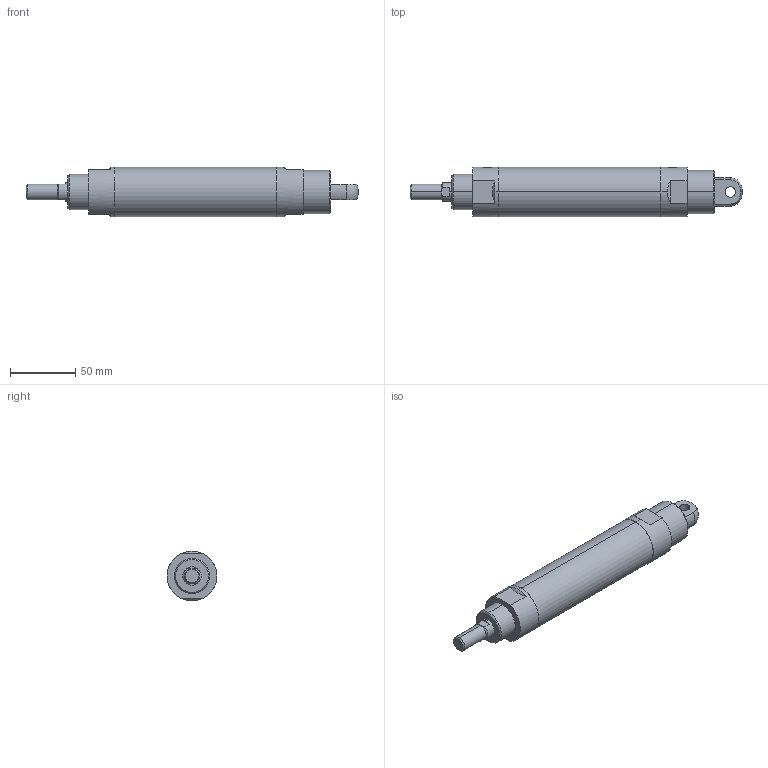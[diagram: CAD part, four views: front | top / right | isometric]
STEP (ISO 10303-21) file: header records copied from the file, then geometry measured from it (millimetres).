
FILE_DESCRIPTION (( 'STEP AP203' ), '1' );
FILE_NAME ('J#2-32-75-C.STEP', '2016-03-08T07:34:39', ( '' ), ( '' ), 'SwSTEP 2.0', 'SolidWorks 2014', '' );
FILE_SCHEMA (( 'CONFIG_CONTROL_DESIGN' ));
Length unit declared in the file: millimetre
Products named in the file (1): J#2-32-75-C
Bounding box: 254 x 38 x 38 mm (x, y, z)
Volume: 213968.8 mm3; surface area: 28821.2 mm2
Topology: 1 solids, 1 shells, 59 faces, 138 edges, 85 vertices
Faces by surface type: cylinder 22, plane 20, cone 15, torus 2
Entity records: 1996 total; most frequent: CARTESIAN_POINT 574, DIRECTION 293, ORIENTED_EDGE 268, EDGE_CURVE 134, AXIS2_PLACEMENT_3D 118, VERTEX_POINT 85, EDGE_LOOP 69, ADVANCED_FACE 59
